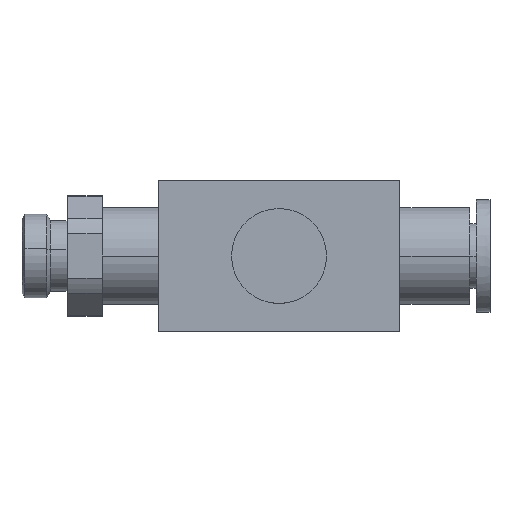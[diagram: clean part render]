
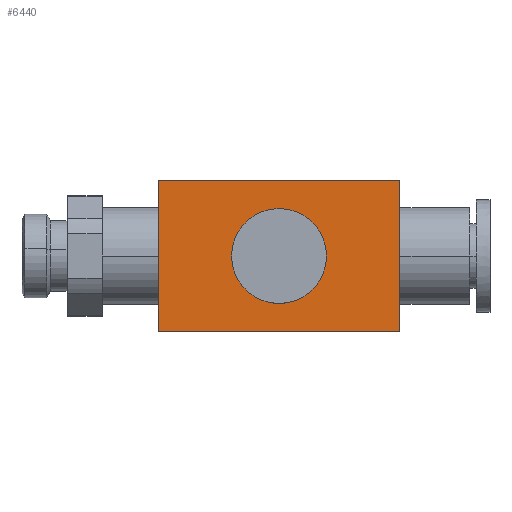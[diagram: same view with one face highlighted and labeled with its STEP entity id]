
A CAD part, front view. The second image highlights one B-rep face of the part: STEP entity #6440.
In plain terms, the highlighted planar face has unit normal (0, -1, 0).
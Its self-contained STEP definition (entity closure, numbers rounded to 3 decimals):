
#592=DIRECTION('',(-1.,0.,0.));
#593=VECTOR('',#592,28.);
#594=CARTESIAN_POINT('',(14.,-7.5,8.8));
#595=LINE('',#594,#593);
#700=DIRECTION('',(-1.,0.,0.));
#701=VECTOR('',#700,28.);
#702=CARTESIAN_POINT('',(14.,-7.5,-8.8));
#703=LINE('',#702,#701);
#707=DIRECTION('',(0.,0.,1.));
#708=VECTOR('',#707,17.6);
#709=CARTESIAN_POINT('',(-14.,-7.5,-8.8));
#710=LINE('',#709,#708);
#714=CARTESIAN_POINT('',(0.,-7.5,0.));
#715=DIRECTION('',(0.,-1.,0.));
#716=DIRECTION('',(1.,0.,0.));
#717=AXIS2_PLACEMENT_3D('',#714,#715,#716);
#722=CARTESIAN_POINT('',(0.,-7.5,0.));
#723=DIRECTION('',(0.,-1.,0.));
#724=DIRECTION('',(-1.,0.,0.));
#725=AXIS2_PLACEMENT_3D('',#722,#723,#724);
#824=DIRECTION('',(0.,0.,1.));
#825=VECTOR('',#824,17.6);
#826=CARTESIAN_POINT('',(14.,-7.5,-8.8));
#827=LINE('',#826,#825);
#5072=CARTESIAN_POINT('',(-14.,-7.5,8.8));
#5074=VERTEX_POINT('',#5072);
#5075=CARTESIAN_POINT('',(-14.,-7.5,-8.8));
#5076=VERTEX_POINT('',#5075);
#5079=CARTESIAN_POINT('',(14.,-7.5,8.8));
#5080=VERTEX_POINT('',#5079);
#5115=CARTESIAN_POINT('',(14.,-7.5,-8.8));
#5116=VERTEX_POINT('',#5115);
#5117=CARTESIAN_POINT('',(5.5,-7.5,0.));
#5118=CARTESIAN_POINT('',(-5.5,-7.5,0.));
#5119=VERTEX_POINT('',#5117);
#5120=VERTEX_POINT('',#5118);
#6421=CARTESIAN_POINT('',(14.,-7.5,0.));
#6422=DIRECTION('',(0.,-1.,0.));
#6423=DIRECTION('',(1.,0.,0.));
#6424=AXIS2_PLACEMENT_3D('',#6421,#6422,#6423);
#6425=PLANE('',#6424);
#6427=ORIENTED_EDGE('',*,*,#6426,.T.);
#6428=ORIENTED_EDGE('',*,*,#6355,.T.);
#6429=ORIENTED_EDGE('',*,*,#6373,.F.);
#6431=ORIENTED_EDGE('',*,*,#6430,.F.);
#6432=EDGE_LOOP('',(#6427,#6428,#6429,#6431));
#6433=FACE_OUTER_BOUND('',#6432,.F.);
#6435=ORIENTED_EDGE('',*,*,#6434,.T.);
#6437=ORIENTED_EDGE('',*,*,#6436,.T.);
#6438=EDGE_LOOP('',(#6435,#6437));
#6439=FACE_BOUND('',#6438,.F.);
#6440=ADVANCED_FACE('',(#6433,#6439),#6425,.T.);
#718=CIRCLE('',#717,5.5);
#726=CIRCLE('',#725,5.5);
#6355=EDGE_CURVE('',#5076,#5074,#710,.T.);
#6373=EDGE_CURVE('',#5080,#5074,#595,.T.);
#6426=EDGE_CURVE('',#5116,#5076,#703,.T.);
#6430=EDGE_CURVE('',#5116,#5080,#827,.T.);
#6434=EDGE_CURVE('',#5119,#5120,#718,.T.);
#6436=EDGE_CURVE('',#5120,#5119,#726,.T.);
